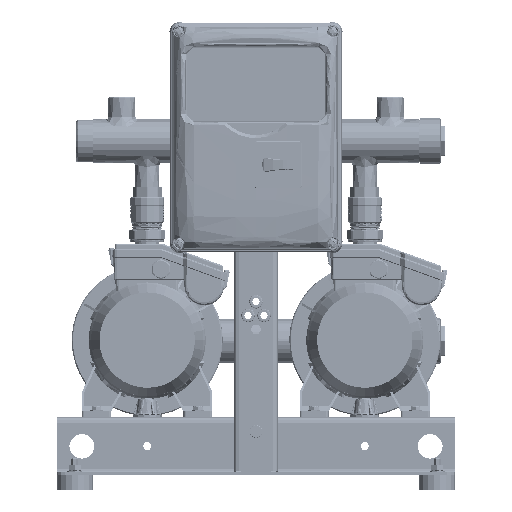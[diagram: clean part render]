
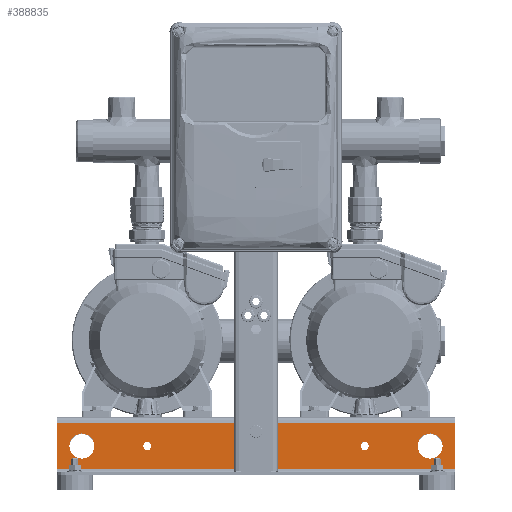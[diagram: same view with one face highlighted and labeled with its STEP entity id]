
A CAD part, top view. The second image highlights one B-rep face of the part: STEP entity #388835.
In plain terms, the highlighted planar face has unit normal (0, 0, 1) as drawn and (0, 0, -1) by its records, which use the part's own axes.
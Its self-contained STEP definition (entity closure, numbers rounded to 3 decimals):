
#382566=DIRECTION('',(1.,0.,0.));
#382567=VECTOR('',#382566,550.);
#382568=CARTESIAN_POINT('',(-275.,-8.,-150.));
#382569=LINE('',#382568,#382567);
#384796=DIRECTION('',(0.,1.,0.));
#384797=VECTOR('',#384796,64.);
#384798=CARTESIAN_POINT('',(-275.,-72.,-150.));
#384799=LINE('',#384798,#384797);
#384817=DIRECTION('',(1.,0.,0.));
#384818=VECTOR('',#384817,550.);
#384819=CARTESIAN_POINT('',(-275.,-72.,-150.));
#384820=LINE('',#384819,#384818);
#384847=DIRECTION('',(0.,1.,0.));
#384848=VECTOR('',#384847,26.);
#384849=CARTESIAN_POINT('',(-26.7,-40.,-150.));
#384850=LINE('',#384849,#384848);
#384854=DIRECTION('',(1.,0.,0.));
#384855=VECTOR('',#384854,3.6);
#384856=CARTESIAN_POINT('',(-30.3,-40.,-150.));
#384857=LINE('',#384856,#384855);
#384861=DIRECTION('',(0.,-1.,0.));
#384862=VECTOR('',#384861,26.);
#384863=CARTESIAN_POINT('',(-30.3,-14.,-150.));
#384864=LINE('',#384863,#384862);
#384868=DIRECTION('',(-1.,0.,0.));
#384869=VECTOR('',#384868,3.6);
#384870=CARTESIAN_POINT('',(-26.7,-14.,-150.));
#384871=LINE('',#384870,#384869);
#384875=DIRECTION('',(0.,1.,0.));
#384876=VECTOR('',#384875,26.);
#384877=CARTESIAN_POINT('',(30.3,-40.,-150.));
#384878=LINE('',#384877,#384876);
#384882=DIRECTION('',(1.,0.,0.));
#384883=VECTOR('',#384882,3.6);
#384884=CARTESIAN_POINT('',(26.7,-40.,-150.));
#384885=LINE('',#384884,#384883);
#384889=DIRECTION('',(0.,-1.,0.));
#384890=VECTOR('',#384889,26.);
#384891=CARTESIAN_POINT('',(26.7,-14.,-150.));
#384892=LINE('',#384891,#384890);
#384896=DIRECTION('',(-1.,0.,0.));
#384897=VECTOR('',#384896,3.6);
#384898=CARTESIAN_POINT('',(30.3,-14.,-150.));
#384899=LINE('',#384898,#384897);
#384903=CARTESIAN_POINT('',(0.,-20.,-150.));
#384904=DIRECTION('',(0.,0.,-1.));
#384905=DIRECTION('',(1.,0.,0.));
#384906=AXIS2_PLACEMENT_3D('',#384903,#384904,#384905);
#384911=CARTESIAN_POINT('',(0.,-20.,-150.));
#384912=DIRECTION('',(0.,0.,-1.));
#384913=DIRECTION('',(-1.,0.,0.));
#384914=AXIS2_PLACEMENT_3D('',#384911,#384912,#384913);
#384919=CARTESIAN_POINT('',(-240.,-40.,-150.));
#384920=DIRECTION('',(0.,0.,1.));
#384921=DIRECTION('',(-1.,0.,0.));
#384922=AXIS2_PLACEMENT_3D('',#384919,#384920,#384921);
#384927=CARTESIAN_POINT('',(-240.,-40.,-150.));
#384928=DIRECTION('',(0.,0.,1.));
#384929=DIRECTION('',(1.,0.,0.));
#384930=AXIS2_PLACEMENT_3D('',#384927,#384928,#384929);
#384935=CARTESIAN_POINT('',(240.,-40.,-150.));
#384936=DIRECTION('',(0.,0.,1.));
#384937=DIRECTION('',(-1.,0.,0.));
#384938=AXIS2_PLACEMENT_3D('',#384935,#384936,#384937);
#384943=CARTESIAN_POINT('',(240.,-40.,-150.));
#384944=DIRECTION('',(0.,0.,1.));
#384945=DIRECTION('',(1.,0.,0.));
#384946=AXIS2_PLACEMENT_3D('',#384943,#384944,#384945);
#384951=CARTESIAN_POINT('',(-150.,-40.,-150.));
#384952=DIRECTION('',(0.,0.,1.));
#384953=DIRECTION('',(1.,0.,0.));
#384954=AXIS2_PLACEMENT_3D('',#384951,#384952,#384953);
#384959=CARTESIAN_POINT('',(-150.,-40.,-150.));
#384960=DIRECTION('',(0.,0.,1.));
#384961=DIRECTION('',(-1.,0.,0.));
#384962=AXIS2_PLACEMENT_3D('',#384959,#384960,#384961);
#384967=CARTESIAN_POINT('',(150.,-40.,-150.));
#384968=DIRECTION('',(0.,0.,-1.));
#384969=DIRECTION('',(-1.,0.,0.));
#384970=AXIS2_PLACEMENT_3D('',#384967,#384968,#384969);
#384975=CARTESIAN_POINT('',(150.,-40.,-150.));
#384976=DIRECTION('',(0.,0.,-1.));
#384977=DIRECTION('',(1.,0.,0.));
#384978=AXIS2_PLACEMENT_3D('',#384975,#384976,#384977);
#384997=DIRECTION('',(0.,1.,0.));
#384998=VECTOR('',#384997,64.);
#384999=CARTESIAN_POINT('',(275.,-72.,-150.));
#385000=LINE('',#384999,#384998);
#386562=CARTESIAN_POINT('',(-275.,-72.,-150.));
#386563=CARTESIAN_POINT('',(-275.,-8.,-150.));
#386564=VERTEX_POINT('',#386562);
#386565=VERTEX_POINT('',#386563);
#386566=CARTESIAN_POINT('',(275.,-72.,-150.));
#386567=CARTESIAN_POINT('',(275.,-8.,-150.));
#386568=VERTEX_POINT('',#386566);
#386569=VERTEX_POINT('',#386567);
#386922=CARTESIAN_POINT('',(-26.7,-40.,-150.));
#386923=CARTESIAN_POINT('',(-26.7,-14.,-150.));
#386924=VERTEX_POINT('',#386922);
#386925=VERTEX_POINT('',#386923);
#386926=CARTESIAN_POINT('',(-30.3,-14.,-150.));
#386927=VERTEX_POINT('',#386926);
#386928=CARTESIAN_POINT('',(-30.3,-40.,-150.));
#386929=VERTEX_POINT('',#386928);
#386930=CARTESIAN_POINT('',(30.3,-40.,-150.));
#386931=CARTESIAN_POINT('',(30.3,-14.,-150.));
#386932=VERTEX_POINT('',#386930);
#386933=VERTEX_POINT('',#386931);
#386934=CARTESIAN_POINT('',(26.7,-14.,-150.));
#386935=VERTEX_POINT('',#386934);
#386936=CARTESIAN_POINT('',(26.7,-40.,-150.));
#386937=VERTEX_POINT('',#386936);
#386954=CARTESIAN_POINT('',(6.25,-20.,-150.));
#386955=CARTESIAN_POINT('',(-6.25,-20.,-150.));
#386956=VERTEX_POINT('',#386954);
#386957=VERTEX_POINT('',#386955);
#386978=CARTESIAN_POINT('',(-257.5,-40.,-150.));
#386979=CARTESIAN_POINT('',(-222.5,-40.,-150.));
#386980=VERTEX_POINT('',#386978);
#386981=VERTEX_POINT('',#386979);
#386982=CARTESIAN_POINT('',(222.5,-40.,-150.));
#386983=CARTESIAN_POINT('',(257.5,-40.,-150.));
#386984=VERTEX_POINT('',#386982);
#386985=VERTEX_POINT('',#386983);
#387078=CARTESIAN_POINT('',(-143.75,-40.,-150.));
#387079=CARTESIAN_POINT('',(-156.25,-40.,-150.));
#387080=VERTEX_POINT('',#387078);
#387081=VERTEX_POINT('',#387079);
#387090=CARTESIAN_POINT('',(143.75,-40.,-150.));
#387092=VERTEX_POINT('',#387090);
#387098=CARTESIAN_POINT('',(156.25,-40.,-150.));
#387100=VERTEX_POINT('',#387098);
#388773=CARTESIAN_POINT('',(-275.,-76.,-150.));
#388774=DIRECTION('',(0.,0.,-1.));
#388775=DIRECTION('',(0.,1.,0.));
#388776=AXIS2_PLACEMENT_3D('',#388773,#388774,#388775);
#388777=PLANE('',#388776);
#388778=ORIENTED_EDGE('',*,*,#388726,.F.);
#388779=ORIENTED_EDGE('',*,*,#388763,.T.);
#388781=ORIENTED_EDGE('',*,*,#388780,.T.);
#388782=ORIENTED_EDGE('',*,*,#387834,.F.);
#388783=EDGE_LOOP('',(#388778,#388779,#388781,#388782));
#388784=FACE_OUTER_BOUND('',#388783,.F.);
#388786=ORIENTED_EDGE('',*,*,#388785,.F.);
#388788=ORIENTED_EDGE('',*,*,#388787,.F.);
#388790=ORIENTED_EDGE('',*,*,#388789,.F.);
#388792=ORIENTED_EDGE('',*,*,#388791,.F.);
#388793=EDGE_LOOP('',(#388786,#388788,#388790,#388792));
#388794=FACE_BOUND('',#388793,.F.);
#388796=ORIENTED_EDGE('',*,*,#388795,.F.);
#388798=ORIENTED_EDGE('',*,*,#388797,.F.);
#388800=ORIENTED_EDGE('',*,*,#388799,.F.);
#388802=ORIENTED_EDGE('',*,*,#388801,.F.);
#388803=EDGE_LOOP('',(#388796,#388798,#388800,#388802));
#388804=FACE_BOUND('',#388803,.F.);
#388806=ORIENTED_EDGE('',*,*,#388805,.T.);
#388808=ORIENTED_EDGE('',*,*,#388807,.T.);
#388809=EDGE_LOOP('',(#388806,#388808));
#388810=FACE_BOUND('',#388809,.F.);
#388812=ORIENTED_EDGE('',*,*,#388811,.F.);
#388814=ORIENTED_EDGE('',*,*,#388813,.F.);
#388815=EDGE_LOOP('',(#388812,#388814));
#388816=FACE_BOUND('',#388815,.F.);
#388818=ORIENTED_EDGE('',*,*,#388817,.F.);
#388820=ORIENTED_EDGE('',*,*,#388819,.F.);
#388821=EDGE_LOOP('',(#388818,#388820));
#388822=FACE_BOUND('',#388821,.F.);
#388824=ORIENTED_EDGE('',*,*,#388823,.F.);
#388826=ORIENTED_EDGE('',*,*,#388825,.F.);
#388827=EDGE_LOOP('',(#388824,#388826));
#388828=FACE_BOUND('',#388827,.F.);
#388830=ORIENTED_EDGE('',*,*,#388829,.T.);
#388832=ORIENTED_EDGE('',*,*,#388831,.T.);
#388833=EDGE_LOOP('',(#388830,#388832));
#388834=FACE_BOUND('',#388833,.F.);
#384907=CIRCLE('',#384906,6.25);
#384915=CIRCLE('',#384914,6.25);
#384923=CIRCLE('',#384922,17.5);
#384931=CIRCLE('',#384930,17.5);
#384939=CIRCLE('',#384938,17.5);
#384947=CIRCLE('',#384946,17.5);
#384955=CIRCLE('',#384954,6.25);
#384963=CIRCLE('',#384962,6.25);
#384971=CIRCLE('',#384970,6.25);
#384979=CIRCLE('',#384978,6.25);
#387834=EDGE_CURVE('',#386565,#386569,#382569,.T.);
#388726=EDGE_CURVE('',#386564,#386565,#384799,.T.);
#388763=EDGE_CURVE('',#386564,#386568,#384820,.T.);
#388780=EDGE_CURVE('',#386568,#386569,#385000,.T.);
#388785=EDGE_CURVE('',#386924,#386925,#384850,.T.);
#388787=EDGE_CURVE('',#386929,#386924,#384857,.T.);
#388789=EDGE_CURVE('',#386927,#386929,#384864,.T.);
#388791=EDGE_CURVE('',#386925,#386927,#384871,.T.);
#388795=EDGE_CURVE('',#386932,#386933,#384878,.T.);
#388797=EDGE_CURVE('',#386937,#386932,#384885,.T.);
#388799=EDGE_CURVE('',#386935,#386937,#384892,.T.);
#388801=EDGE_CURVE('',#386933,#386935,#384899,.T.);
#388805=EDGE_CURVE('',#386956,#386957,#384907,.T.);
#388807=EDGE_CURVE('',#386957,#386956,#384915,.T.);
#388811=EDGE_CURVE('',#386980,#386981,#384923,.T.);
#388813=EDGE_CURVE('',#386981,#386980,#384931,.T.);
#388817=EDGE_CURVE('',#386984,#386985,#384939,.T.);
#388819=EDGE_CURVE('',#386985,#386984,#384947,.T.);
#388823=EDGE_CURVE('',#387080,#387081,#384955,.T.);
#388825=EDGE_CURVE('',#387081,#387080,#384963,.T.);
#388829=EDGE_CURVE('',#387092,#387100,#384971,.T.);
#388831=EDGE_CURVE('',#387100,#387092,#384979,.T.);
#388835=ADVANCED_FACE('',(#388784,#388794,#388804,#388810,#388816,#388822,
#388828,#388834),#388777,.T.);
